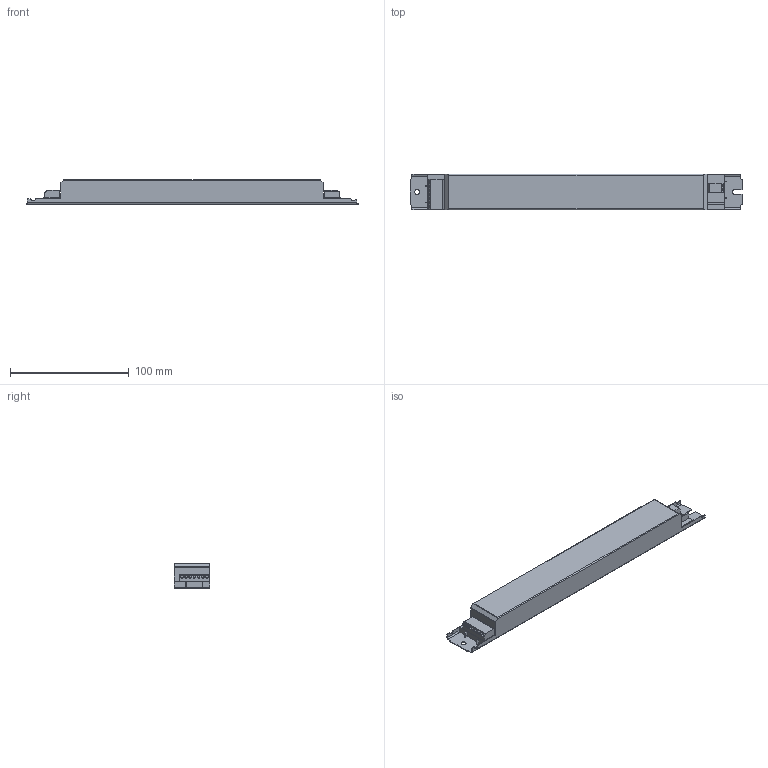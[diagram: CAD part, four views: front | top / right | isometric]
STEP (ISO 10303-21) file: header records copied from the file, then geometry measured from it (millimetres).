
FILE_DESCRIPTION((''),'2;1');
FILE_NAME('15013912Z_MERCURY280X30X21_72AN','2021-07-21T11:53:42',('Juergen.Hrach'),(''),'CREO PARAMETRIC BY PTC INC, 2019164','CREO PARAMETRIC BY PTC INC, 2019164','');
FILE_SCHEMA(('CONFIG_CONTROL_DESIGN'));
Length unit declared in the file: millimetre
Products named in the file (1): 15013912Z_MERCURY280X30X21_72AN
Bounding box: 280 x 30 x 21 mm (x, y, z)
Volume: 146677.3 mm3; surface area: 28384.8 mm2
Topology: 1 solids, 1 shells, 174 faces, 499 edges, 330 vertices
Faces by surface type: plane 93, cylinder 81
Entity records: 5912 total; most frequent: CARTESIAN_POINT 1283, ORIENTED_EDGE 998, DIRECTION 929, EDGE_CURVE 499, VERTEX_POINT 330, VECTOR 315, LINE 315, AXIS2_PLACEMENT_3D 307
